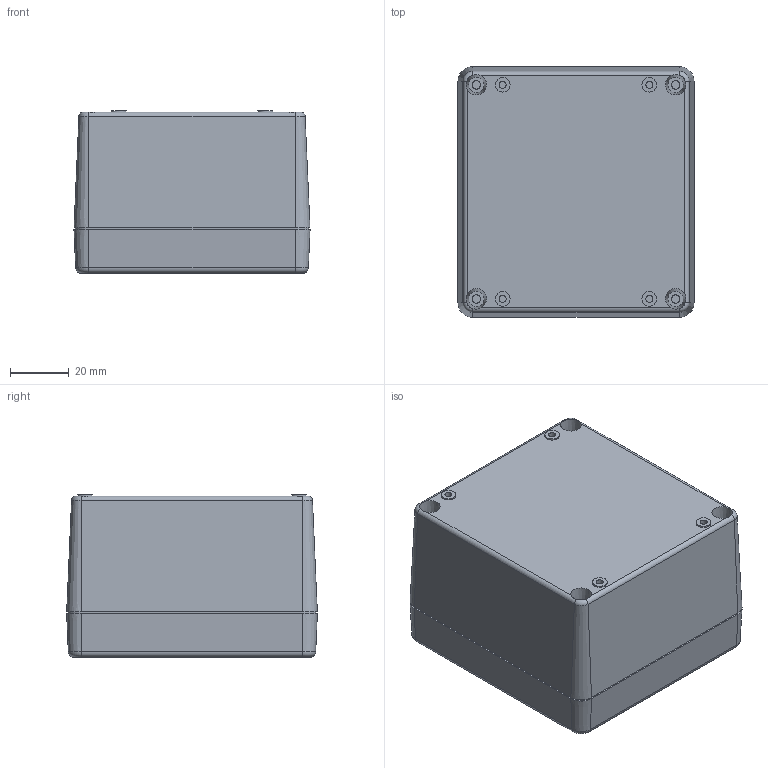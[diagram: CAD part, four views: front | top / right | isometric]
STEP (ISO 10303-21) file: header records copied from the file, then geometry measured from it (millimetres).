
FILE_DESCRIPTION((''),'2;1');
FILE_NAME('E:\Eng\Customer Service\Drawings\Ritec\Step\RP SERIES\RP1065C.stp','2009-07-29T13:32:32',('tcook'),(''),'Autodesk Inventor 2010','Autodesk Inventor 2010','');
FILE_SCHEMA(('AUTOMOTIVE_DESIGN { 1 0 10303 214 1 1 1 1 }'));
Products named in the file (5): RP1065C-Assembly; 1065B_0A; M35x10-pan(B18.6.7M - M3.5 x 0.6 x 10 Type I Cross Recessed PHMS --10S)_0A; 1065T_C; PLATE
Assembly tree (7 placements, depth 2):
  RP1065C-Assembly
    1065B_0A
    M35x10-pan(B18.6.7M - M3.5 x 0.6 x 10 Type I Cross Recessed PHMS --10S)_0A  x4
    1065T_C
    PLATE
Bounding box: 80.5 x 85.5 x 55.5 mm (x, y, z)
Volume: 90884.1 mm3; surface area: 76512.1 mm2
Topology: 7 solids, 7 shells, 655 faces, 1523 edges, 931 vertices
Faces by surface type: plane 255, cone 168, cylinder 160, torus 56, sphere 8, bspline 8
Full cylindrical faces by diameter (mm): 2.4 x4, 3 x4, 3.5 x42, 4.5 x6, 5 x4, 7 x4
Entity records: 14249 total; most frequent: CARTESIAN_POINT 2909, DIRECTION 2508, ORIENTED_EDGE 2108, EDGE_CURVE 1054, AXIS2_PLACEMENT_3D 1011, VERTEX_POINT 704, EDGE_LOOP 644, CIRCLE 512
